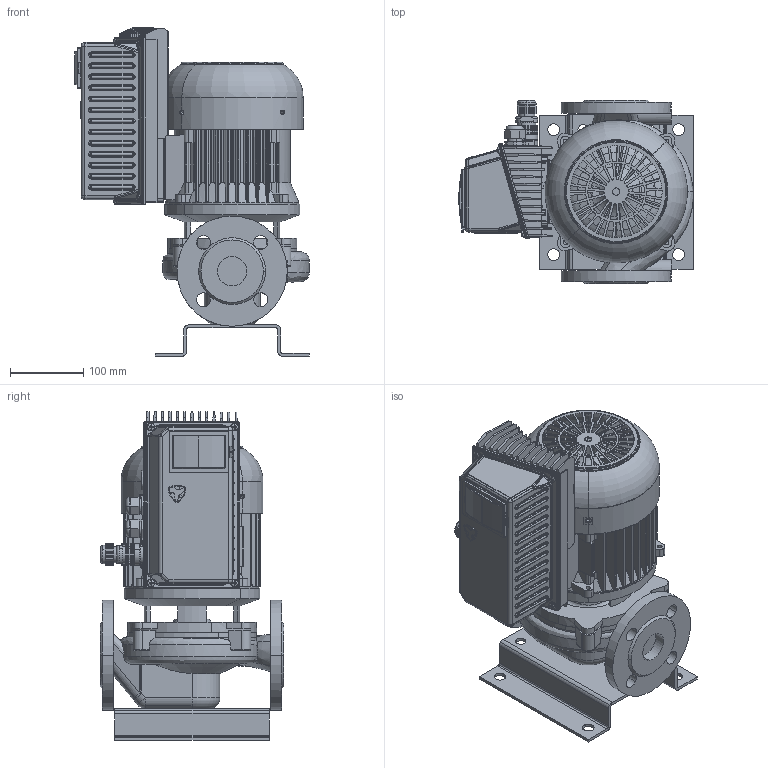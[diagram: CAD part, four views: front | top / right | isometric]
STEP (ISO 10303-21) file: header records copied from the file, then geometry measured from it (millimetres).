
FILE_DESCRIPTION(('STEP AP214'),'1');
FILE_NAME('export.stp','2018-05-31T12:45:11',(' '),(' '),'Spatial InterOp 3D',' ',' ');
FILE_SCHEMA(('AUTOMOTIVE_DESIGN { 1 0 10303 214 1 1 1 1 }'));
Length unit declared in the file: millimetre
Products named in the file (38): KHSC100B2F19; G34046; G23619; G23630; G43699; DIN_EN_24017-M6x25; G23888; KH100_SC; P100518; P100576; P100453; P100467; DIN_7985-M5x12; P100515; P100512; P100513; P100514; P100509; ontto_sylinteri; DIN_7985-M3x12; P100569; P100567; P100566; P100565; P100606; P100607; P100580; P101504; P101332; PART3; PART4; W_L40A4370-SC-KH; V_EKN13OKN101; V_TLAEAP3233L40A; V_PPL40A; V_JALKA35973
Assembly tree (45 placements, depth 5):
  W_L40A4370-SC-KH
    KH100_SC
      KHSC100B2F19
        G34046
        G23619
        G23630
        G43699
        DIN_EN_24017-M6x25  x4
        G23888
      P100518
        P100576
        P100453
        P100467
        DIN_7985-M5x12  x4
        P100515
          P100512
          P100513
          P100514
          P100509
          ontto_sylinteri
        DIN_7985-M3x12  x2
        P100569
        P100567
          P100566
          P100565
          ontto_sylinteri
        P100606
          P100607
          P100565
          ontto_sylinteri
        P100580
        P101504
        P101332
          PART3
          PART4
    V_EKN13OKN101
    V_TLAEAP3233L40A
    V_PPL40A
    V_JALKA35973
Bounding box: 319.34 x 250 x 447.58 mm (x, y, z)
Volume: 4462167.9 mm3; surface area: 1343945.2 mm2
Topology: 38 solids, 38 shells, 3669 faces, 9999 edges, 6442 vertices
Faces by surface type: cylinder 1541, plane 1504, torus 249, cone 199, sphere 94, bspline 82
Entity records: 176391 total; most frequent: CARTESIAN_POINT 34152, DIRECTION 19446, ORIENTED_EDGE 19210, EDGE_CURVE 9605, STYLED_ITEM 8001, PRESENTATION_STYLE_ASSIGNMENT 8001, COLOUR_RGB 8001, AXIS2_PLACEMENT_3D 7409
